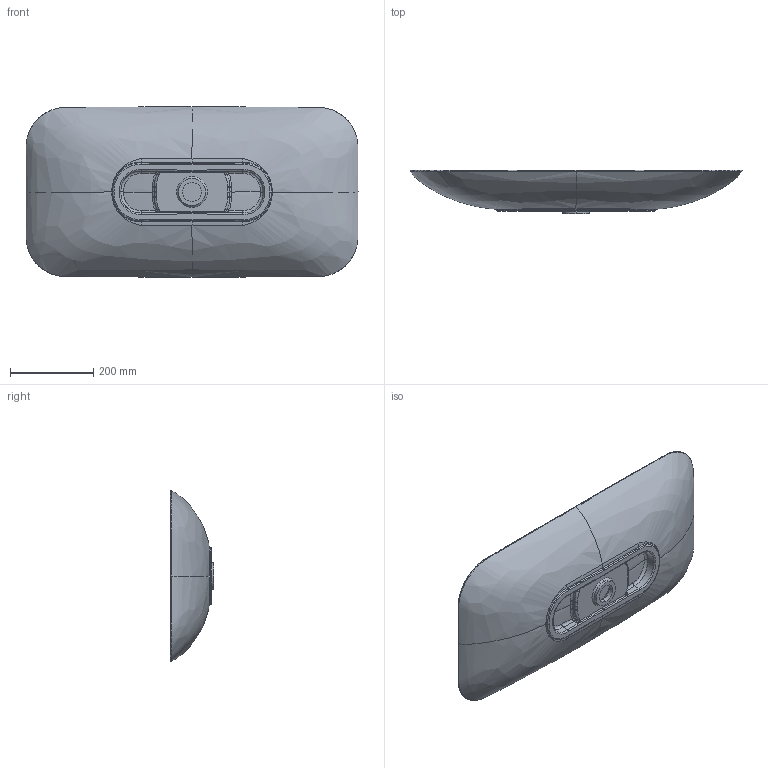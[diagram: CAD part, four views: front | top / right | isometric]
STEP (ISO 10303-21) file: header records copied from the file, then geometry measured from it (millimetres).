
FILE_DESCRIPTION (( 'STEP AP203' ), '1' );
FILE_NAME ('Parça7.STEP', '2023-01-19T10:37:33', ( '' ), ( '' ), 'SwSTEP 2.0', 'SolidWorks 2021', '' );
FILE_SCHEMA (( 'CONFIG_CONTROL_DESIGN' ));
Length unit declared in the file: inch
Products named in the file (1): Parça7
Bounding box: 797.37 x 104.54 x 408.71 mm (x, y, z)
Volume: 7955701.4 mm3; surface area: 763344 mm2
Topology: 2 solids, 4 shells, 379 faces, 914 edges, 553 vertices
Faces by surface type: bspline 286, plane 35, torus 24, cylinder 22, cone 12
Entity records: 48768 total; most frequent: CARTESIAN_POINT 41940, ORIENTED_EDGE 1820, EDGE_CURVE 910, DIRECTION 787, B_SPLINE_CURVE_WITH_KNOTS 560, VERTEX_POINT 553, EDGE_LOOP 395, ADVANCED_FACE 379
